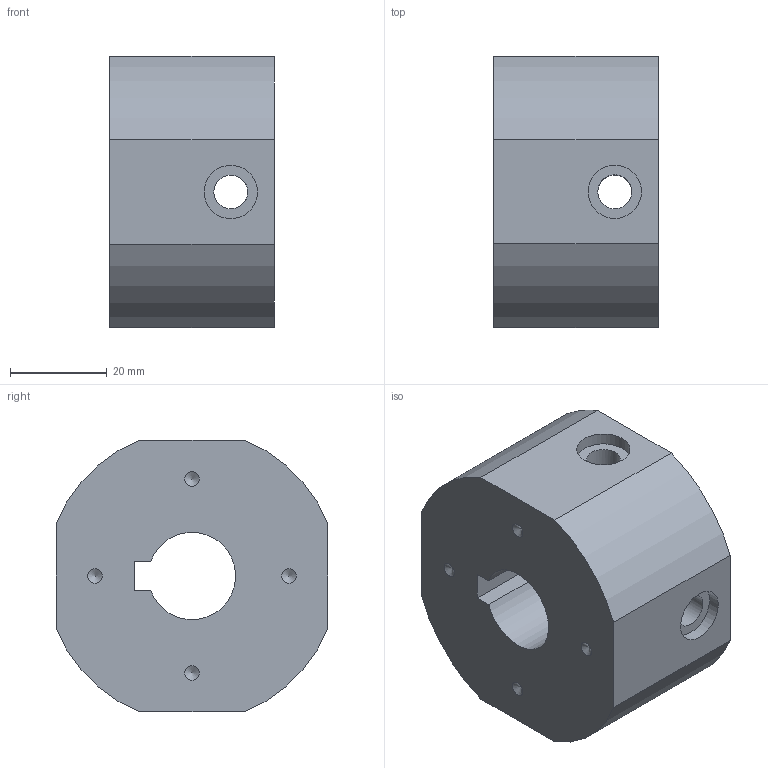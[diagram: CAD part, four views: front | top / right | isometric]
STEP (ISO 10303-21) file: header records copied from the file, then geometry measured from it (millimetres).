
FILE_DESCRIPTION(/* description */ (''),/* implementation_level */ '2;1');
FILE_NAME(/* name */ 'C:\Users\woori\Desktop\611105E1014-서포트.stp',/* time_stamp */ '2021-11-20T11:28:28+09:00',/* author */ ('woori'),/* organization */ (''),/* preprocessor_version */ 'ST-DEVELOPER v17',/* originating_system */ 'Autodesk Inventor 2018',/* authorisation */ '');
FILE_SCHEMA (('AUTOMOTIVE_DESIGN { 1 0 10303 214 3 1 1 }'));
Length unit declared in the file: millimetre
Products named in the file (1): 61105E1014
Bounding box: 34 x 56 x 56 mm (x, y, z)
Volume: 61042.1 mm3; surface area: 15187.5 mm2
Topology: 1 solids, 1 shells, 38 faces, 108 edges, 77 vertices
Faces by surface type: cylinder 19, plane 15, cone 4
Full cylindrical faces by diameter (mm): 3 x4, 7 x4, 11 x4, 35 x1, 40 x1
Entity records: 1440 total; most frequent: CARTESIAN_POINT 357, DIRECTION 223, ORIENTED_EDGE 208, EDGE_CURVE 104, AXIS2_PLACEMENT_3D 89, VERTEX_POINT 77, EDGE_LOOP 57, CIRCLE 50
